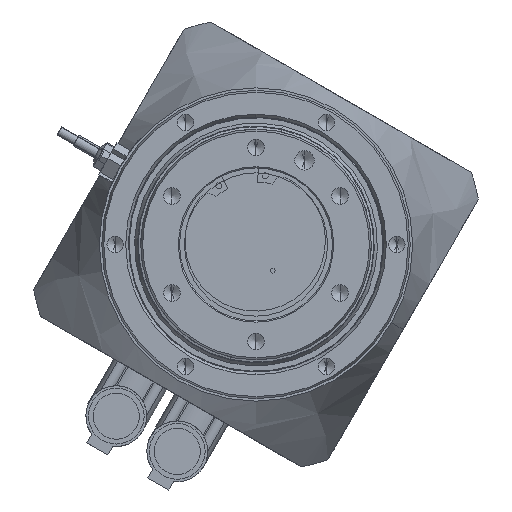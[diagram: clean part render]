
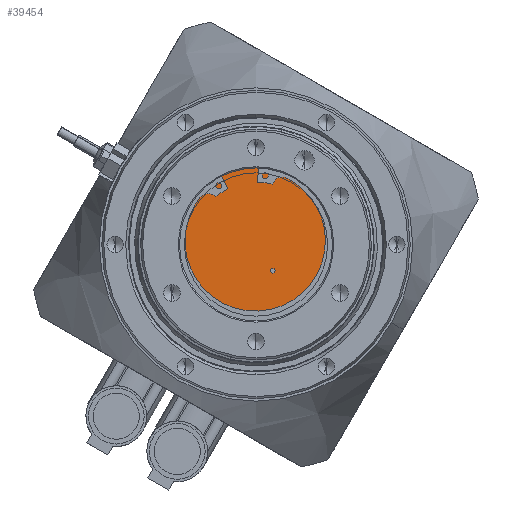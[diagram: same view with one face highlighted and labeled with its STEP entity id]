
A CAD part, front view. The second image highlights one B-rep face of the part: STEP entity #39454.
In plain terms, the highlighted planar face has unit normal (0, -1, 0).
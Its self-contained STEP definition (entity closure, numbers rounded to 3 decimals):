
#450 = ORIENTED_EDGE ( 'NONE', *, *, #53666, .T. ) ;
#2512 = EDGE_CURVE ( 'NONE', #7531, #27275, #51128, .T. ) ;
#3058 = DIRECTION ( 'NONE',  ( 0., 0., 1. ) ) ;
#3344 = PLANE ( 'NONE',  #43280 ) ;
#3660 = DIRECTION ( 'NONE',  ( 0., 1., 0. ) ) ;
#3705 = CARTESIAN_POINT ( 'NONE',  ( 71.219, -247.879, 97.194 ) ) ;
#7531 = VERTEX_POINT ( 'NONE', #31429 ) ;
#8175 = FACE_OUTER_BOUND ( 'NONE', #47934, .T. ) ;
#8294 = CARTESIAN_POINT ( 'NONE',  ( 78.16, -247.879, 86.367 ) ) ;
#9380 = ORIENTED_EDGE ( 'NONE', *, *, #34600, .F. ) ;
#10753 = CIRCLE ( 'NONE', #13948, 1. ) ;
#12998 = FACE_BOUND ( 'NONE', #28595, .T. ) ;
#13711 = CARTESIAN_POINT ( 'NONE',  ( 78.16, -247.879, 87.367 ) ) ;
#13948 = AXIS2_PLACEMENT_3D ( 'NONE', #8294, #52222, #16821 ) ;
#14330 = AXIS2_PLACEMENT_3D ( 'NONE', #24685, #16464, #47222 ) ;
#16179 = CARTESIAN_POINT ( 'NONE',  ( 71.219, -247.879, 97.194 ) ) ;
#16464 = DIRECTION ( 'NONE',  ( 0., 1., 0. ) ) ;
#16821 = DIRECTION ( 'NONE',  ( 0., 0., 1. ) ) ;
#19686 = CIRCLE ( 'NONE', #20373, 31.5 ) ;
#20373 = AXIS2_PLACEMENT_3D ( 'NONE', #34073, #3660, #46994 ) ;
#20708 = DIRECTION ( 'NONE',  ( 0., 1., 0. ) ) ;
#24685 = CARTESIAN_POINT ( 'NONE',  ( 78.16, -247.879, 86.367 ) ) ;
#24777 = DIRECTION ( 'NONE',  ( 0., 1., 0. ) ) ;
#27275 = VERTEX_POINT ( 'NONE', #13711 ) ;
#27648 = CARTESIAN_POINT ( 'NONE',  ( 71.219, -247.879, 128.694 ) ) ;
#28088 = ORIENTED_EDGE ( 'NONE', *, *, #2512, .T. ) ;
#28595 = EDGE_LOOP ( 'NONE', ( #28088, #450 ) ) ;
#28787 = EDGE_CURVE ( 'NONE', #44164, #45544, #19686, .T. ) ;
#31429 = CARTESIAN_POINT ( 'NONE',  ( 78.16, -247.879, 85.367 ) ) ;
#34073 = CARTESIAN_POINT ( 'NONE',  ( 71.219, -247.879, 97.194 ) ) ;
#34600 = EDGE_CURVE ( 'NONE', #45544, #44164, #43540, .T. ) ;
#39454 = ADVANCED_FACE ( 'NONE', ( #8175, #12998 ), #3344, .F. ) ;
#43199 = DIRECTION ( 'NONE',  ( 0., 0., 1. ) ) ;
#43280 = AXIS2_PLACEMENT_3D ( 'NONE', #3705, #20708, #43199 ) ;
#43540 = CIRCLE ( 'NONE', #48964, 31.5 ) ;
#44164 = VERTEX_POINT ( 'NONE', #27648 ) ;
#45544 = VERTEX_POINT ( 'NONE', #50848 ) ;
#46544 = ORIENTED_EDGE ( 'NONE', *, *, #28787, .F. ) ;
#46994 = DIRECTION ( 'NONE',  ( 0., 0., 1. ) ) ;
#47222 = DIRECTION ( 'NONE',  ( 0., 0., 1. ) ) ;
#47934 = EDGE_LOOP ( 'NONE', ( #9380, #46544 ) ) ;
#48964 = AXIS2_PLACEMENT_3D ( 'NONE', #16179, #24777, #3058 ) ;
#50848 = CARTESIAN_POINT ( 'NONE',  ( 71.219, -247.879, 65.694 ) ) ;
#51128 = CIRCLE ( 'NONE', #14330, 1. ) ;
#52222 = DIRECTION ( 'NONE',  ( 0., 1., 0. ) ) ;
#53666 = EDGE_CURVE ( 'NONE', #27275, #7531, #10753, .T. ) ;
